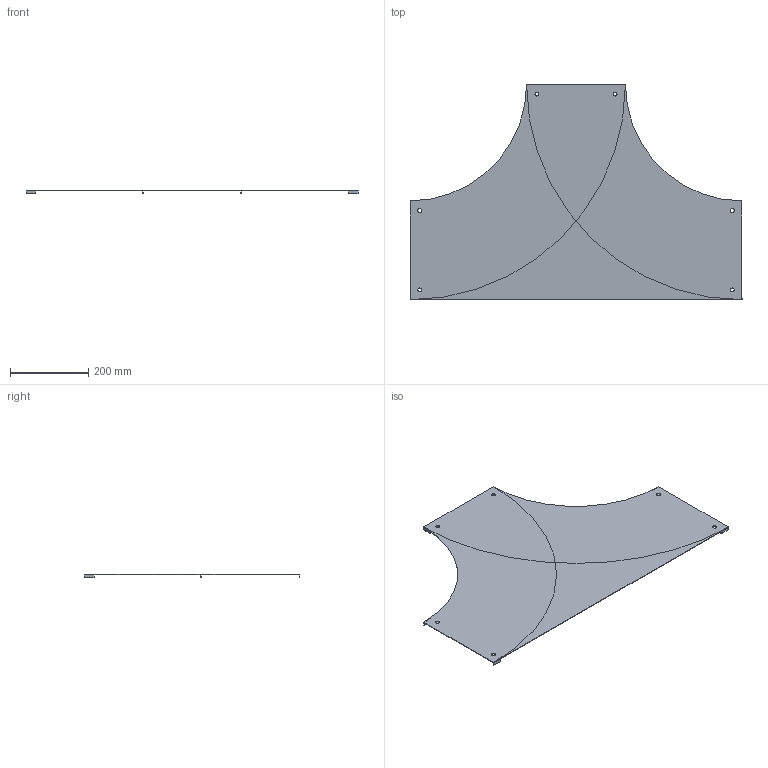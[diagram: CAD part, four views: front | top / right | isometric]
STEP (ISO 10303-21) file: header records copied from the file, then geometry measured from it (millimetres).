
FILE_DESCRIPTION(/* description */ ('','CAx-IF Rec.Pracs.---Representation and Presentation of Product Manufacturing Information (PMI)---4.0---2014-10-13'),/* implementation_level */ '2;1');
FILE_NAME(/* name */ 'Eurostrut_EETC200-300_Cover T-Piece for Cable Ladder ECL.step',/* time_stamp */ '2026-09-10T09:50:34+02:00',/* author */ (''),/* organization */ (''),/* preprocessor_version */ 'ST-DEVELOPER v20.1',/* originating_system */ 'Autodesk Revit 2027 27.2.0.39',/* authorisation */ '');
FILE_SCHEMA (('AP242_MANAGED_MODEL_BASED_3D_ENGINEERING_MIM_LF { 1 0 10303 442 2 1 4 }'));
Length unit declared in the file: millimetre
Products named in the file (7): TopLevelAssembly; Extrusion; Joined Solid Geometry; Joined Solid Geometry_1; Joined Solid Geometry_2; Joined Solid Geometry_3; Joined Solid Geometry_4
Assembly tree (6 placements, depth 2):
  TopLevelAssembly
    Extrusion
    Joined Solid Geometry
    Joined Solid Geometry_1
    Joined Solid Geometry_2
    Joined Solid Geometry_3
    Joined Solid Geometry_4
Bounding box: 850 x 551.5 x 9 mm (x, y, z)
Volume: 999959.4 mm3; surface area: 1343868.1 mm2
Topology: 9 solids, 9 shells, 84 faces, 198 edges, 132 vertices
Faces by surface type: plane 42, cylinder 42
Entity records: 2630 total; most frequent: DIRECTION 476, CARTESIAN_POINT 427, ORIENTED_EDGE 396, EDGE_CURVE 198, AXIS2_PLACEMENT_3D 181, VERTEX_POINT 132, LINE 114, VECTOR 114
